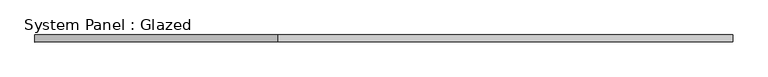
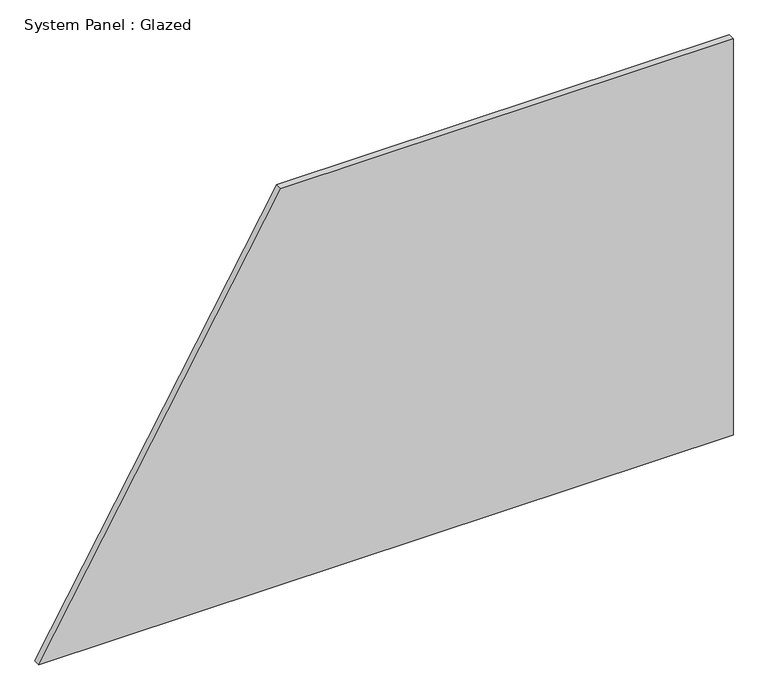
"""IFC4 building model written with IfcOpenShell, lengths in millimetres: plate geometry, System Panel : Glazed."""

from ifc_helpers import new_model, si_unit, frame, origin, place, context, project, spatial, polyline, outline, extrude, source, transform, mapped, element, save


def system_panel_glazed_222c0f4e(model_context):
    return source(origin(), model_context, "Body", "SweptSolid", [
        extrude(outline(polyline([(0.0, -1261.7066065), (0.0, 1261.7066065), (1524.0, 1261.7066065), (1524.0, -381.8247963), (0.0, -1261.7066065)])), frame((0.0, 19.05, 0.0), z_axis=(0.0, 1.0, 0.0), x_axis=(0.0, 0.0, 1.0)), (0.0, 0.0, 1.0), 25.4),
    ])


if __name__ == "__main__":
    model = new_model("IFC4")
    model_context = context("Model", 3, world=origin())
    ifc_project = project(units=[si_unit("LENGTHUNIT", "METRE", prefix="MILLI")], contexts=[model_context])
    site = spatial("IfcSite", under=ifc_project)
    building = spatial("IfcBuilding", under=site)
    placement = place(None, origin())
    system_panel_glazed_shape = system_panel_glazed_222c0f4e(model_context)
    element("IfcPlate", 1, ObjectType="System Panel : Glazed", at=placement, inside=building, context=model_context, shape_type="MappedRepresentation", body=[
        mapped(system_panel_glazed_shape, transform((0.0, 0.0, 0.0), x_axis=(1.0, 0.0, 0.0), y_axis=(0.0, 1.0, 0.0), z_axis=(0.0, 0.0, 1.0))),
    ])
    save(model, "model.ifc")
